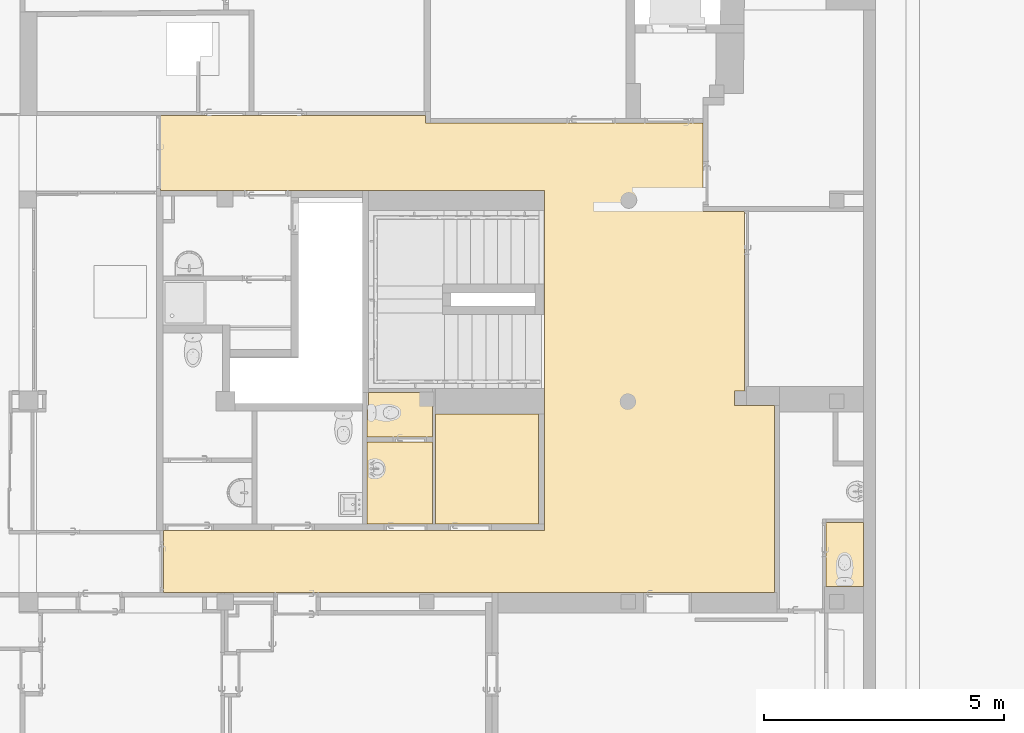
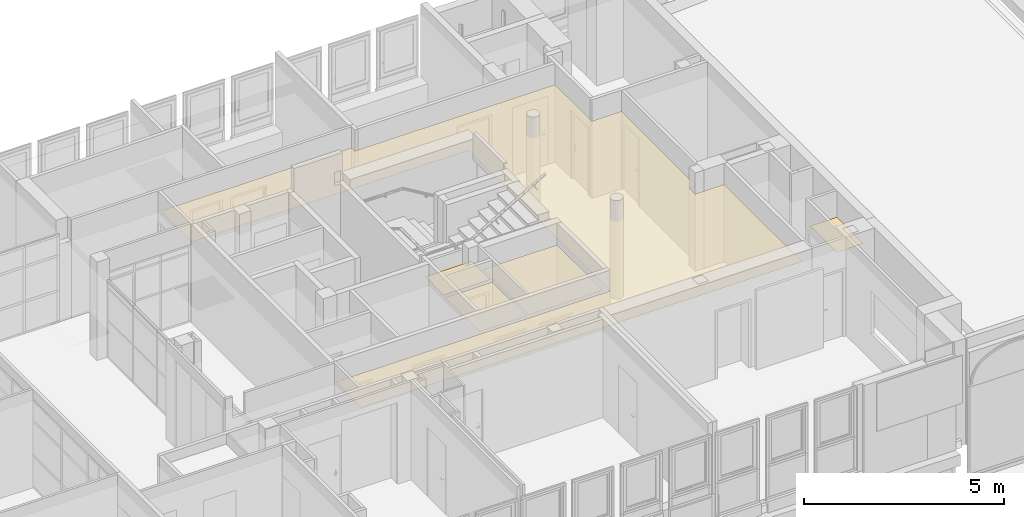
# One storey, part 94 of 97: 5 coverings.
"""IFC4 building model written with IfcOpenShell, lengths in metres."""

from ifc_helpers import new_model, entity, si_unit, converted_unit, derived_unit, direction, frame, origin, place, context, subcontext, project, spatial, polygons, material, layer, layer_set, type_object, element, save


model = new_model("IFC4")

# Units and contexts
model_context = context("Model", 3, precision=1e-05, world=origin(), true_north=direction((6.12303176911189e-17, 1.0)))
body_context = subcontext(model_context, "Body", "Model", "MODEL_VIEW")
ifc_project = project(units=[si_unit("LENGTHUNIT", "METRE"), si_unit("AREAUNIT", "SQUARE_METRE"), si_unit("VOLUMEUNIT", "CUBIC_METRE"), converted_unit("PLANEANGLEUNIT", "DEGREE", entity("IfcRatioMeasure", 0.0174532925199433), si_unit("PLANEANGLEUNIT", "RADIAN"), dimensions=[0, 0, 0, 0, 0, 0, 0]), si_unit("MASSUNIT", "GRAM", prefix="KILO"), derived_unit("MASSDENSITYUNIT", [(si_unit("MASSUNIT", "GRAM", prefix="KILO"), 1), (si_unit("LENGTHUNIT", "METRE"), -3)]), derived_unit("MOMENTOFINERTIAUNIT", [(si_unit("LENGTHUNIT", "METRE"), 4)]), si_unit("TIMEUNIT", "SECOND"), si_unit("FREQUENCYUNIT", "HERTZ"), si_unit("THERMODYNAMICTEMPERATUREUNIT", "DEGREE_CELSIUS"), derived_unit("THERMALTRANSMITTANCEUNIT", [(si_unit("MASSUNIT", "GRAM", prefix="KILO"), 1), (si_unit("THERMODYNAMICTEMPERATUREUNIT", "KELVIN"), -1), (si_unit("TIMEUNIT", "SECOND"), -3)]), derived_unit("VOLUMETRICFLOWRATEUNIT", [(si_unit("LENGTHUNIT", "METRE"), 3), (si_unit("TIMEUNIT", "SECOND"), -1)]), si_unit("ELECTRICCURRENTUNIT", "AMPERE"), si_unit("ELECTRICVOLTAGEUNIT", "VOLT"), si_unit("POWERUNIT", "WATT"), si_unit("FORCEUNIT", "NEWTON", prefix="KILO"), si_unit("ILLUMINANCEUNIT", "LUX"), si_unit("LUMINOUSFLUXUNIT", "LUMEN"), si_unit("LUMINOUSINTENSITYUNIT", "CANDELA"), derived_unit("USERDEFINED", [(si_unit("MASSUNIT", "GRAM", prefix="KILO"), -1), (si_unit("LENGTHUNIT", "METRE"), -2), (si_unit("TIMEUNIT", "SECOND"), 3), (si_unit("LUMINOUSFLUXUNIT", "LUMEN"), 1)]), derived_unit("LINEARVELOCITYUNIT", [(si_unit("LENGTHUNIT", "METRE"), 1), (si_unit("TIMEUNIT", "SECOND"), -1)]), si_unit("PRESSUREUNIT", "PASCAL"), derived_unit("USERDEFINED", [(si_unit("LENGTHUNIT", "METRE"), -2), (si_unit("MASSUNIT", "GRAM", prefix="KILO"), 1), (si_unit("TIMEUNIT", "SECOND"), -2)]), derived_unit("LINEARFORCEUNIT", [(si_unit("MASSUNIT", "GRAM", prefix="KILO"), 1), (si_unit("LENGTHUNIT", "METRE"), 1), (si_unit("TIMEUNIT", "SECOND"), -2), (si_unit("LENGTHUNIT", "METRE"), -1)]), derived_unit("PLANARFORCEUNIT", [(si_unit("MASSUNIT", "GRAM", prefix="KILO"), 1), (si_unit("LENGTHUNIT", "METRE"), 1), (si_unit("TIMEUNIT", "SECOND"), -2), (si_unit("LENGTHUNIT", "METRE"), -2)])], contexts=[model_context])

# Site, building, storey
site_placement = place(None, origin())
site = spatial("IfcSite", under=ifc_project, at=site_placement, Name="Default", CompositionType="ELEMENT")
building_placement = place(site_placement, origin())
building = spatial("IfcBuilding", under=site, at=building_placement, Name="HOTEL CONSULAIRE BOULOGNE SUR MER", CompositionType="ELEMENT")
storey_placement = place(building_placement, frame((0.0, 0.0, 3.62152697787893)))
storey = spatial("IfcBuildingStorey", under=building, at=storey_placement, Name="Niveau 1", CompositionType="ELEMENT", Elevation=3.62152697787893)

# Coverings
ifc_material = material(Name="Faux-plafond - Trame 600 x 600", Category="Divers")
ifc_layer = layer(ifc_material, 0.0, Name="Faux-plafond - Trame 600 x 600", Category="Divers")
ifc_layer_set = layer_set([ifc_layer], Name="Plafond de base:Plafond 600 mm x 1200 mm")
covering_type_1 = type_object("IfcCoveringType", Name="Plafond de base:Plafond 600 mm x 1200 mm", PredefinedType="CEILING")
covering_1_placement = place(storey_placement, frame((1.72747131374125, -22.3950276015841, 2.34)))
element("IfcCovering", 1, at=covering_1_placement, inside=storey, type_object=covering_type_1, material=ifc_layer_set, Name="Plafond de base:Plafond 600 mm x 1200 mm", ObjectType="Plafond de base:Plafond 600 mm x 1200 mm", PredefinedType="CEILING", context=body_context, shape_type="Tessellation", body=[
    polygons([(0.0, 4.33146851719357e-15, 0.0), (1.36034228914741, 0.0, 0.0), (1.36034228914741, 1.71943559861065, 0.0), (2.97788460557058e-15, 1.71943559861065, 0.0)], [[[4, 1, 2, 3]]], closed=True),
])
covering_type_2 = type_object("IfcCoveringType", Name="Plafond de base:Plafond 600 mm x 1200 mm", PredefinedType="CEILING")
covering_2_placement = place(storey_placement, frame((1.72747131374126, -20.5755920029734, 2.3516)))
element("IfcCovering", 2, at=covering_2_placement, inside=storey, type_object=covering_type_2, material=ifc_layer_set, Name="Plafond de base:Plafond 600 mm x 1200 mm", ObjectType="Plafond de base:Plafond 600 mm x 1200 mm", PredefinedType="CEILING", context=body_context, shape_type="Tessellation", body=[
    polygons([(-2.70716782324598e-16, 4.33146851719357e-15, 0.0), (1.36034228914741, 0.0, 0.0), (1.36034228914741, 0.930677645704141, 0.0), (0.0300000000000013, 0.930677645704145, 0.0), (0.0300000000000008, 0.57067764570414, 0.0), (8.12150346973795e-16, 0.57067764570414, 0.0)], [[[5, 6, 1, 2, 3, 4]]], closed=True),
])
covering_type_3 = type_object("IfcCoveringType", Name="Plafond de base:Plafond 600 mm x 1200 mm", PredefinedType="CEILING")
covering_3_placement = place(storey_placement, frame((3.15781360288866, -22.3950276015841, 2.3516)))
element("IfcCovering", 3, at=covering_3_placement, inside=storey, type_object=covering_type_3, material=ifc_layer_set, Name="Plafond de base:Plafond 600 mm x 1200 mm", ObjectType="Plafond de base:Plafond 600 mm x 1200 mm", PredefinedType="CEILING", context=body_context, shape_type="Tessellation", body=[
    polygons([(2.13924170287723, -4.33146851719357e-15, 0.0), (2.13924170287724, 2.30011324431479, 0.0), (3.24860138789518e-15, 2.3001132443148, 0.0), (-5.41433564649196e-16, 4.33146851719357e-15, 0.0)], [[[3, 4, 1, 2]]], closed=True),
])
covering_type_4 = type_object("IfcCoveringType", Name="Plafond de base:Plafond 600 mm x 1200 mm", PredefinedType="CEILING")
covering_4_placement = place(storey_placement, frame((11.2994778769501, -23.6927611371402, 2.1996)))
element("IfcCovering", 4, at=covering_4_placement, inside=storey, type_object=covering_type_4, material=ifc_layer_set, Name="Plafond de base:Plafond 600 mm x 1200 mm", ObjectType="Plafond de base:Plafond 600 mm x 1200 mm", PredefinedType="CEILING", context=body_context, shape_type="Tessellation", body=[
    polygons([(0.777000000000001, 1.33, 0.0), (2.16573425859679e-15, 1.33, 0.0), (0.0, 0.0, 0.0), (0.776999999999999, 0.0, 0.0)], [[[2, 3, 4, 1]]], closed=True),
])
covering_type_5 = type_object("IfcCoveringType", Name="Plafond de base:Plafond 600 mm x 1200 mm", PredefinedType="CEILING")
covering_5_placement = place(storey_placement, frame((-2.58052868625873, -23.8227611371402, 2.3687)))
element("IfcCovering", 5, at=covering_5_placement, inside=storey, type_object=covering_type_5, material=ifc_layer_set, Name="Plafond de base:Plafond 600 mm x 1200 mm", ObjectType="Plafond de base:Plafond 600 mm x 1200 mm", PredefinedType="CEILING", context=body_context, shape_type="Tessellation", body=[
    polygons([(0.0613958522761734, 0.0, 0.0), (12.8040065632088, 0.0, 0.0), (12.8040065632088, 3.90182448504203, 0.0), (11.9669756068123, 3.90182448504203, 0.0), (11.9669756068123, 4.20182448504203, 0.0), (12.1719756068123, 4.20182448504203, 0.0), (12.1719756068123, 7.95185132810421, 0.0), (11.3161669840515, 7.95185132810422, 0.0), (11.3161669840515, 9.79197714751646, 0.0), (5.52482639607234, 9.79197714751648, 0.0), (5.52482639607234, 9.95184697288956, 0.0), (2.16573425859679e-15, 9.95184697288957, 0.0), (-5.41433564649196e-16, 8.38751909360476, 0.0), (8.00758399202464, 8.38751909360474, 0.0), (8.00758399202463, 1.29773353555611, 0.0), (0.0613958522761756, 1.29773353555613, 0.0)], [[[16, 1, 2, 3, 4, 5, 6, 7, 8, 9, 10, 11, 12, 13, 14, 15]]], closed=True),
])

save(model, "model.ifc")
